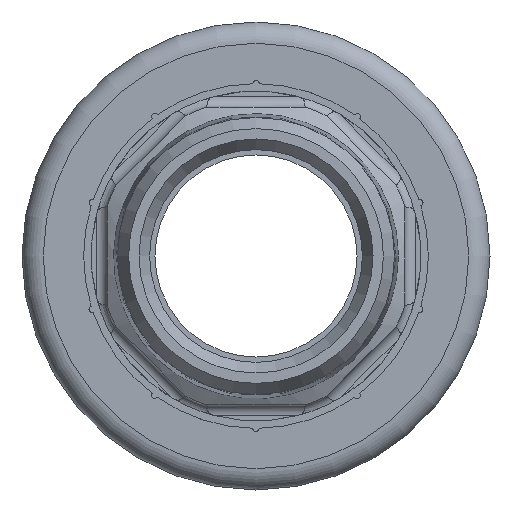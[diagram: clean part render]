
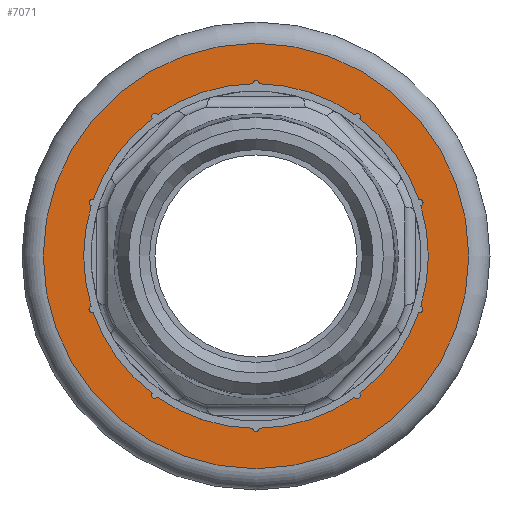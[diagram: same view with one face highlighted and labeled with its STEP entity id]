
A CAD part, left-side view. The second image highlights one B-rep face of the part: STEP entity #7071.
In plain terms, the highlighted planar face has unit normal (-1, 0, 0).
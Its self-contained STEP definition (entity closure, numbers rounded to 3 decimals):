
#1029=PLANE('',#9228);
#2233=ORIENTED_EDGE('',*,*,#3476,.F.);
#2234=ORIENTED_EDGE('',*,*,#3599,.F.);
#2235=ORIENTED_EDGE('',*,*,#3591,.T.);
#2236=ORIENTED_EDGE('',*,*,#3659,.F.);
#2237=ORIENTED_EDGE('',*,*,#3629,.F.);
#2238=ORIENTED_EDGE('',*,*,#3634,.F.);
#2239=ORIENTED_EDGE('',*,*,#3621,.F.);
#2240=ORIENTED_EDGE('',*,*,#3669,.F.);
#2241=ORIENTED_EDGE('',*,*,#3612,.T.);
#2242=ORIENTED_EDGE('',*,*,#3683,.F.);
#2243=ORIENTED_EDGE('',*,*,#3675,.F.);
#2244=ORIENTED_EDGE('',*,*,#3693,.F.);
#2245=ORIENTED_EDGE('',*,*,#3542,.T.);
#2246=ORIENTED_EDGE('',*,*,#3567,.F.);
#2247=ORIENTED_EDGE('',*,*,#3550,.F.);
#2248=ORIENTED_EDGE('',*,*,#3579,.F.);
#2249=ORIENTED_EDGE('',*,*,#3725,.F.);
#2250=ORIENTED_EDGE('',*,*,#3504,.F.);
#2251=ORIENTED_EDGE('',*,*,#3517,.F.);
#2252=ORIENTED_EDGE('',*,*,#3464,.T.);
#2253=ORIENTED_EDGE('',*,*,#3987,.T.);
#3464=EDGE_CURVE('',#4593,#4592,#5333,.T.);
#3476=EDGE_CURVE('',#4604,#4592,#5337,.T.);
#3504=EDGE_CURVE('',#4621,#4622,#5342,.T.);
#3517=EDGE_CURVE('',#4593,#4621,#5346,.T.);
#3542=EDGE_CURVE('',#4647,#4648,#5353,.T.);
#3550=EDGE_CURVE('',#4655,#4656,#5354,.T.);
#3567=EDGE_CURVE('',#4656,#4648,#5360,.T.);
#3579=EDGE_CURVE('',#4680,#4655,#5364,.T.);
#3591=EDGE_CURVE('',#4690,#4689,#5367,.T.);
#3599=EDGE_CURVE('',#4690,#4604,#5370,.T.);
#3612=EDGE_CURVE('',#4708,#4707,#5374,.T.);
#3621=EDGE_CURVE('',#4715,#4716,#5375,.T.);
#3629=EDGE_CURVE('',#4722,#4723,#5378,.T.);
#3634=EDGE_CURVE('',#4716,#4722,#5379,.T.);
#3659=EDGE_CURVE('',#4723,#4689,#5387,.T.);
#3669=EDGE_CURVE('',#4708,#4715,#5391,.T.);
#3675=EDGE_CURVE('',#4759,#4760,#5393,.T.);
#3683=EDGE_CURVE('',#4760,#4707,#5394,.T.);
#3693=EDGE_CURVE('',#4647,#4759,#5398,.T.);
#3725=EDGE_CURVE('',#4622,#4680,#5408,.T.);
#3987=EDGE_CURVE('',#4934,#4934,#5509,.T.);
#4592=VERTEX_POINT('',#11371);
#4593=VERTEX_POINT('',#11373);
#4604=VERTEX_POINT('',#11416);
#4621=VERTEX_POINT('',#11572);
#4622=VERTEX_POINT('',#11574);
#4647=VERTEX_POINT('',#11760);
#4648=VERTEX_POINT('',#11761);
#4655=VERTEX_POINT('',#11798);
#4656=VERTEX_POINT('',#11800);
#4680=VERTEX_POINT('',#11907);
#4689=VERTEX_POINT('',#11969);
#4690=VERTEX_POINT('',#11971);
#4707=VERTEX_POINT('',#12055);
#4708=VERTEX_POINT('',#12057);
#4715=VERTEX_POINT('',#12105);
#4716=VERTEX_POINT('',#12107);
#4722=VERTEX_POINT('',#12140);
#4723=VERTEX_POINT('',#12141);
#4759=VERTEX_POINT('',#12325);
#4760=VERTEX_POINT('',#12327);
#4934=VERTEX_POINT('',#14163);
#5333=CIRCLE('',#8894,16.2);
#5337=CIRCLE('',#8899,0.3);
#5342=CIRCLE('',#8914,16.2);
#5346=CIRCLE('',#8919,0.3);
#5353=CIRCLE('',#8936,0.3);
#5354=CIRCLE('',#8938,0.3);
#5360=CIRCLE('',#8946,16.2);
#5364=CIRCLE('',#8951,16.2);
#5367=CIRCLE('',#8958,0.3);
#5370=CIRCLE('',#8963,16.2);
#5374=CIRCLE('',#8968,0.3);
#5375=CIRCLE('',#8971,0.3);
#5378=CIRCLE('',#8976,0.3);
#5379=CIRCLE('',#8978,16.2);
#5387=CIRCLE('',#8989,16.2);
#5391=CIRCLE('',#8994,16.2);
#5393=CIRCLE('',#8998,0.3);
#5394=CIRCLE('',#9001,16.2);
#5398=CIRCLE('',#9006,16.2);
#5408=CIRCLE('',#9027,0.3);
#5509=CIRCLE('',#9229,20.);
#5934=EDGE_LOOP('',(#2233,#2234,#2235,#2236,#2237,#2238,#2239,#2240,#2241,
#2242,#2243,#2244,#2245,#2246,#2247,#2248,#2249,#2250,#2251,#2252));
#5935=EDGE_LOOP('',(#2253));
#6424=FACE_BOUND('',#5934,.T.);
#6425=FACE_BOUND('',#5935,.T.);
#7071=ADVANCED_FACE('',(#6424,#6425),#1029,.T.);
#8894=AXIS2_PLACEMENT_3D('',#11372,#9680,#9681);
#8899=AXIS2_PLACEMENT_3D('',#11415,#9693,#9694);
#8914=AXIS2_PLACEMENT_3D('',#11573,#9727,#9728);
#8919=AXIS2_PLACEMENT_3D('',#11625,#9740,#9741);
#8936=AXIS2_PLACEMENT_3D('',#11759,#9776,#9777);
#8938=AXIS2_PLACEMENT_3D('',#11799,#9783,#9784);
#8946=AXIS2_PLACEMENT_3D('',#11865,#9802,#9803);
#8951=AXIS2_PLACEMENT_3D('',#11908,#9815,#9816);
#8958=AXIS2_PLACEMENT_3D('',#11970,#9830,#9831);
#8963=AXIS2_PLACEMENT_3D('',#12003,#9841,#9842);
#8968=AXIS2_PLACEMENT_3D('',#12056,#9854,#9855);
#8971=AXIS2_PLACEMENT_3D('',#12106,#9862,#9863);
#8976=AXIS2_PLACEMENT_3D('',#12139,#9873,#9874);
#8978=AXIS2_PLACEMENT_3D('',#12161,#9879,#9880);
#8989=AXIS2_PLACEMENT_3D('',#12264,#9905,#9906);
#8994=AXIS2_PLACEMENT_3D('',#12299,#9917,#9918);
#8998=AXIS2_PLACEMENT_3D('',#12326,#9926,#9927);
#9001=AXIS2_PLACEMENT_3D('',#12365,#9933,#9934);
#9006=AXIS2_PLACEMENT_3D('',#12400,#9945,#9946);
#9027=AXIS2_PLACEMENT_3D('',#12550,#9991,#9992);
#9228=AXIS2_PLACEMENT_3D('',#14161,#10419,#10420);
#9229=AXIS2_PLACEMENT_3D('',#14162,#10421,#10422);
#9680=DIRECTION('',(1.,0.,0.));
#9681=DIRECTION('',(0.,1.,0.));
#9693=DIRECTION('',(-1.,0.,0.));
#9694=DIRECTION('',(0.,0.,1.));
#9727=DIRECTION('',(-1.,0.,0.));
#9728=DIRECTION('',(0.,0.,1.));
#9740=DIRECTION('',(-1.,0.,0.));
#9741=DIRECTION('',(0.,0.,1.));
#9776=DIRECTION('',(1.,0.,0.));
#9777=DIRECTION('',(0.,-0.809,0.588));
#9783=DIRECTION('',(-1.,0.,0.));
#9784=DIRECTION('',(0.,0.,1.));
#9802=DIRECTION('',(-1.,0.,0.));
#9803=DIRECTION('',(0.,0.,1.));
#9815=DIRECTION('',(-1.,0.,0.));
#9816=DIRECTION('',(0.,0.,1.));
#9830=DIRECTION('',(1.,0.,0.));
#9831=DIRECTION('',(0.,-0.809,-0.588));
#9841=DIRECTION('',(-1.,0.,0.));
#9842=DIRECTION('',(0.,0.,1.));
#9854=DIRECTION('',(1.,0.,0.));
#9855=DIRECTION('',(0.,0.309,0.951));
#9862=DIRECTION('',(-1.,0.,0.));
#9863=DIRECTION('',(0.,0.,1.));
#9873=DIRECTION('',(-1.,0.,0.));
#9874=DIRECTION('',(0.,0.,1.));
#9879=DIRECTION('',(-1.,0.,0.));
#9880=DIRECTION('',(0.,0.,1.));
#9905=DIRECTION('',(-1.,0.,0.));
#9906=DIRECTION('',(0.,0.,1.));
#9917=DIRECTION('',(-1.,0.,0.));
#9918=DIRECTION('',(0.,0.,1.));
#9926=DIRECTION('',(-1.,0.,0.));
#9927=DIRECTION('',(0.,0.,1.));
#9933=DIRECTION('',(-1.,0.,0.));
#9934=DIRECTION('',(0.,0.,1.));
#9945=DIRECTION('',(-1.,0.,0.));
#9946=DIRECTION('',(0.,0.,1.));
#9991=DIRECTION('',(-1.,0.,0.));
#9992=DIRECTION('',(0.,0.,1.));
#10419=DIRECTION('',(-1.,0.,0.));
#10420=DIRECTION('',(0.,0.,1.));
#10421=DIRECTION('',(-1.,0.,0.));
#10422=DIRECTION('',(0.,0.,1.));
#11371=CARTESIAN_POINT('',(0.,15.495,4.726));
#11372=CARTESIAN_POINT('',(0.,0.,0.));
#11373=CARTESIAN_POINT('',(0.,15.499,-4.713));
#11415=CARTESIAN_POINT('',(0.,15.399,5.011));
#11416=CARTESIAN_POINT('',(0.,15.309,5.297));
#11572=CARTESIAN_POINT('',(0.,15.314,-5.284));
#11573=CARTESIAN_POINT('',(0.,0.,0.));
#11574=CARTESIAN_POINT('',(0.,9.768,-12.923));
#11625=CARTESIAN_POINT('',(0.,15.404,-4.998));
#11759=CARTESIAN_POINT('',(0.,-9.513,-13.105));
#11760=CARTESIAN_POINT('',(0.,-9.758,-12.931));
#11761=CARTESIAN_POINT('',(0.,-9.272,-13.284));
#11798=CARTESIAN_POINT('',(0.,0.307,-16.197));
#11799=CARTESIAN_POINT('',(0.,0.007,-16.194));
#11800=CARTESIAN_POINT('',(0.,-0.293,-16.197));
#11865=CARTESIAN_POINT('',(0.,0.,0.));
#11907=CARTESIAN_POINT('',(0.,9.283,-13.276));
#11908=CARTESIAN_POINT('',(0.,0.,0.));
#11969=CARTESIAN_POINT('',(0.,9.272,13.284));
#11970=CARTESIAN_POINT('',(0.,9.513,13.105));
#11971=CARTESIAN_POINT('',(0.,9.758,12.931));
#12003=CARTESIAN_POINT('',(0.,0.,0.));
#12055=CARTESIAN_POINT('',(0.,-15.499,4.713));
#12056=CARTESIAN_POINT('',(0.,-15.404,4.998));
#12057=CARTESIAN_POINT('',(0.,-15.314,5.284));
#12105=CARTESIAN_POINT('',(0.,-9.768,12.923));
#12106=CARTESIAN_POINT('',(0.,-9.524,13.097));
#12107=CARTESIAN_POINT('',(0.,-9.283,13.276));
#12139=CARTESIAN_POINT('',(0.,-0.007,16.194));
#12140=CARTESIAN_POINT('',(0.,-0.307,16.197));
#12141=CARTESIAN_POINT('',(0.,0.293,16.197));
#12161=CARTESIAN_POINT('',(0.,0.,0.));
#12264=CARTESIAN_POINT('',(0.,0.,0.));
#12299=CARTESIAN_POINT('',(0.,0.,0.));
#12325=CARTESIAN_POINT('',(0.,-15.309,-5.297));
#12326=CARTESIAN_POINT('',(0.,-15.399,-5.011));
#12327=CARTESIAN_POINT('',(0.,-15.495,-4.726));
#12365=CARTESIAN_POINT('',(0.,0.,0.));
#12400=CARTESIAN_POINT('',(0.,0.,0.));
#12550=CARTESIAN_POINT('',(0.,9.524,-13.097));
#14161=CARTESIAN_POINT('',(0.,0.,14.5));
#14162=CARTESIAN_POINT('',(0.,0.,0.));
#14163=CARTESIAN_POINT('',(0.,0.,20.));
